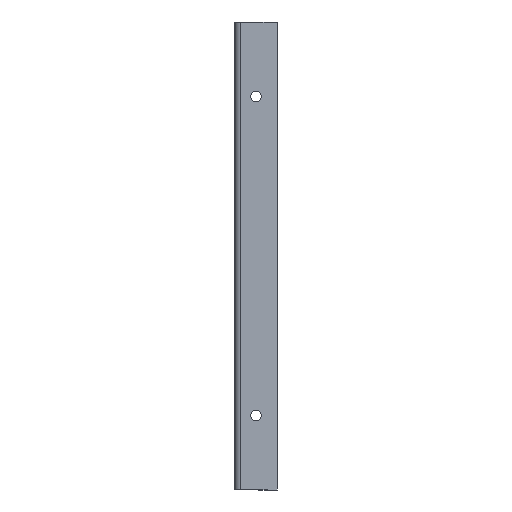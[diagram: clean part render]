
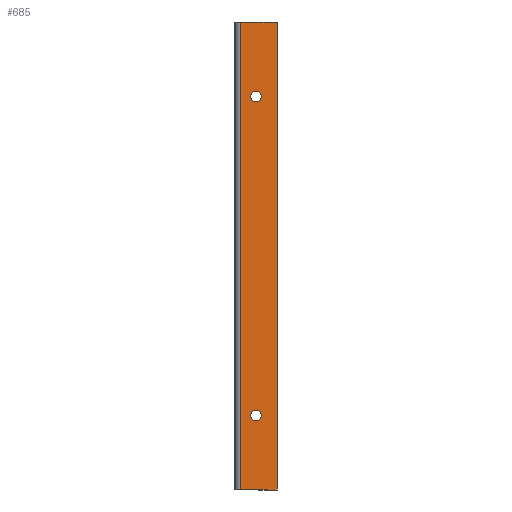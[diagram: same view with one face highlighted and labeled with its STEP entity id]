
A CAD part, front view. The second image highlights one B-rep face of the part: STEP entity #685.
In plain terms, the highlighted planar face has unit normal (0, -1, 0).
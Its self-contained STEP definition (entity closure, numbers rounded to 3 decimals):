
#21 = CARTESIAN_POINT ( 'NONE',  ( 120., -2., -120. ) ) ;
#31 = ORIENTED_EDGE ( 'NONE', *, *, #1718, .F. ) ;
#70 = VERTEX_POINT ( 'NONE', #2271 ) ;
#77 = EDGE_LOOP ( 'NONE', ( #3334, #3897 ) ) ;
#121 = DIRECTION ( 'NONE',  ( 0., 0., -1. ) ) ;
#150 = DIRECTION ( 'NONE',  ( 0., -1., 0. ) ) ;
#325 = AXIS2_PLACEMENT_3D ( 'NONE', #1374, #2297, #2638 ) ;
#525 = FACE_BOUND ( 'NONE', #3843, .T. ) ;
#538 = DIRECTION ( 'NONE',  ( 0., 0., -1. ) ) ;
#685 = ADVANCED_FACE ( 'NONE', ( #525, #2367, #3604 ), #2941, .T. ) ;
#691 = VERTEX_POINT ( 'NONE', #2012 ) ;
#746 = CARTESIAN_POINT ( 'NONE',  ( 102.736, -2., 100. ) ) ;
#877 = VERTEX_POINT ( 'NONE', #746 ) ;
#943 = CARTESIAN_POINT ( 'NONE',  ( 102.736, -2., 100. ) ) ;
#960 = AXIS2_PLACEMENT_3D ( 'NONE', #1153, #3002, #538 ) ;
#1064 = VECTOR ( 'NONE', #1730, 1000. ) ;
#1121 = VERTEX_POINT ( 'NONE', #1170 ) ;
#1153 = CARTESIAN_POINT ( 'NONE',  ( 110., -2., -85. ) ) ;
#1170 = CARTESIAN_POINT ( 'NONE',  ( 110., -2., -82.5 ) ) ;
#1374 = CARTESIAN_POINT ( 'NONE',  ( 110., -2., -85. ) ) ;
#1386 = CARTESIAN_POINT ( 'NONE',  ( 110., -2., 65. ) ) ;
#1408 = VECTOR ( 'NONE', #3701, 1000. ) ;
#1491 = CIRCLE ( 'NONE', #960, 2.5 ) ;
#1563 = EDGE_CURVE ( 'NONE', #1121, #2001, #3702, .T. ) ;
#1600 = ORIENTED_EDGE ( 'NONE', *, *, #3319, .F. ) ;
#1633 = VECTOR ( 'NONE', #2887, 1000. ) ;
#1718 = EDGE_CURVE ( 'NONE', #877, #70, #1805, .T. ) ;
#1730 = DIRECTION ( 'NONE',  ( 1., 0., 0. ) ) ;
#1805 = LINE ( 'NONE', #3587, #1064 ) ;
#1837 = VERTEX_POINT ( 'NONE', #3426 ) ;
#1888 = EDGE_CURVE ( 'NONE', #877, #2583, #3898, .T. ) ;
#1902 = VERTEX_POINT ( 'NONE', #21 ) ;
#1951 = CARTESIAN_POINT ( 'NONE',  ( 110., -2., -87.5 ) ) ;
#2001 = VERTEX_POINT ( 'NONE', #1951 ) ;
#2012 = CARTESIAN_POINT ( 'NONE',  ( 110., -2., 62.5 ) ) ;
#2050 = ORIENTED_EDGE ( 'NONE', *, *, #1888, .T. ) ;
#2242 = LINE ( 'NONE', #2857, #2292 ) ;
#2271 = CARTESIAN_POINT ( 'NONE',  ( 120., -2., 100. ) ) ;
#2292 = VECTOR ( 'NONE', #3451, 1000. ) ;
#2297 = DIRECTION ( 'NONE',  ( 0., -1., 0. ) ) ;
#2367 = FACE_BOUND ( 'NONE', #77, .T. ) ;
#2382 = AXIS2_PLACEMENT_3D ( 'NONE', #3347, #3331, #3317 ) ;
#2398 = LINE ( 'NONE', #3846, #1633 ) ;
#2527 = EDGE_CURVE ( 'NONE', #70, #1902, #2242, .T. ) ;
#2583 = VERTEX_POINT ( 'NONE', #3166 ) ;
#2638 = DIRECTION ( 'NONE',  ( 0., 0., -1. ) ) ;
#2806 = DIRECTION ( 'NONE',  ( -1., 0., 0. ) ) ;
#2857 = CARTESIAN_POINT ( 'NONE',  ( 120., -2., 100. ) ) ;
#2879 = CIRCLE ( 'NONE', #2382, 2.5 ) ;
#2887 = DIRECTION ( 'NONE',  ( -1., 0., 0. ) ) ;
#2898 = AXIS2_PLACEMENT_3D ( 'NONE', #3781, #3743, #2806 ) ;
#2941 = PLANE ( 'NONE',  #2898 ) ;
#3002 = DIRECTION ( 'NONE',  ( 0., -1., 0. ) ) ;
#3153 = EDGE_CURVE ( 'NONE', #1837, #691, #3332, .T. ) ;
#3166 = CARTESIAN_POINT ( 'NONE',  ( 102.736, -2., -120. ) ) ;
#3317 = DIRECTION ( 'NONE',  ( 0., 0., -1. ) ) ;
#3319 = EDGE_CURVE ( 'NONE', #2001, #1121, #1491, .T. ) ;
#3331 = DIRECTION ( 'NONE',  ( 0., -1., 0. ) ) ;
#3332 = CIRCLE ( 'NONE', #3364, 2.5 ) ;
#3334 = ORIENTED_EDGE ( 'NONE', *, *, #3153, .F. ) ;
#3347 = CARTESIAN_POINT ( 'NONE',  ( 110., -2., 65. ) ) ;
#3364 = AXIS2_PLACEMENT_3D ( 'NONE', #1386, #150, #121 ) ;
#3426 = CARTESIAN_POINT ( 'NONE',  ( 110., -2., 67.5 ) ) ;
#3451 = DIRECTION ( 'NONE',  ( 0., 0., -1. ) ) ;
#3510 = ORIENTED_EDGE ( 'NONE', *, *, #1563, .F. ) ;
#3587 = CARTESIAN_POINT ( 'NONE',  ( 120., -2., 100. ) ) ;
#3604 = FACE_OUTER_BOUND ( 'NONE', #3610, .T. ) ;
#3610 = EDGE_LOOP ( 'NONE', ( #31, #2050, #3634, #3667 ) ) ;
#3634 = ORIENTED_EDGE ( 'NONE', *, *, #3753, .F. ) ;
#3667 = ORIENTED_EDGE ( 'NONE', *, *, #2527, .F. ) ;
#3701 = DIRECTION ( 'NONE',  ( 0., 0., -1. ) ) ;
#3702 = CIRCLE ( 'NONE', #325, 2.5 ) ;
#3743 = DIRECTION ( 'NONE',  ( 0., -1., 0. ) ) ;
#3753 = EDGE_CURVE ( 'NONE', #1902, #2583, #2398, .T. ) ;
#3781 = CARTESIAN_POINT ( 'NONE',  ( 120., -2., 100. ) ) ;
#3843 = EDGE_LOOP ( 'NONE', ( #3510, #1600 ) ) ;
#3846 = CARTESIAN_POINT ( 'NONE',  ( 120., -2., -120. ) ) ;
#3883 = EDGE_CURVE ( 'NONE', #691, #1837, #2879, .T. ) ;
#3897 = ORIENTED_EDGE ( 'NONE', *, *, #3883, .F. ) ;
#3898 = LINE ( 'NONE', #943, #1408 ) ;
